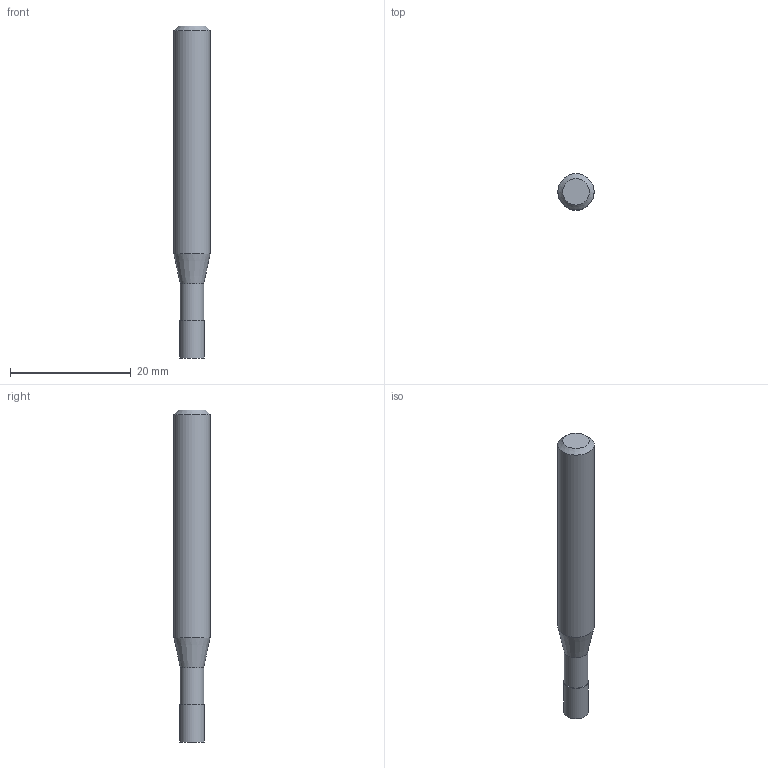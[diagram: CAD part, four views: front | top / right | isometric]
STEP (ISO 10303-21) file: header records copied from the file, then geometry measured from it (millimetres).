
FILE_DESCRIPTION((''),'2;1');
FILE_NAME('C:\Users\nsx150\AppData\Local\Temp\Mastercam 2021\EUJSUNXURU\TEMP.step','2021-04-22T10:28:18',(''),(''),'STEP Write','Mastercam 2021 ... CNC Software, Inc.','');
FILE_SCHEMA(('AUTOMOTIVE_DESIGN'));
Length unit declared in the file: millimetre
Products named in the file (1): None
Bounding box: 6 x 6 x 55 mm (x, y, z)
Volume: 1313.4 mm3; surface area: 1001.9 mm2
Topology: 2 solids, 2 shells, 9 faces, 12 edges, 7 vertices
Faces by surface type: plane 4, cylinder 3, cone 2
Full cylindrical faces by diameter (mm): 3.9 x1, 4.1 x1, 6 x1
Entity records: 211 total; most frequent: DIRECTION 36, CARTESIAN_POINT 25, AXIS2_PLACEMENT_3D 18, ORIENTED_EDGE 14, EDGE_LOOP 14, STYLED_ITEM 12, ADVANCED_FACE 9, FACE_BOUND 8
